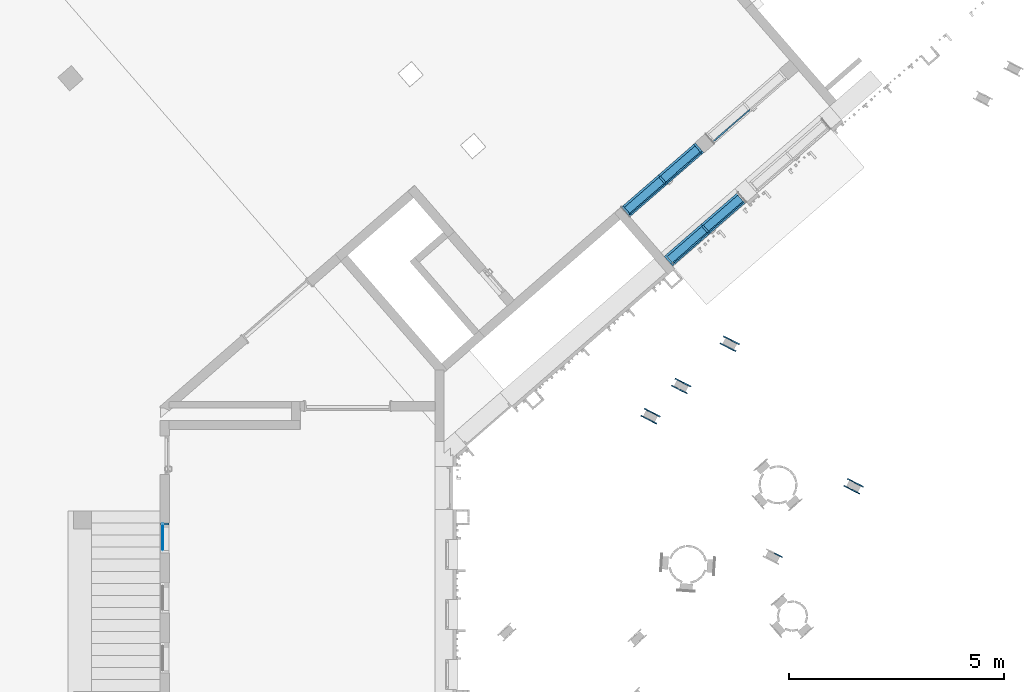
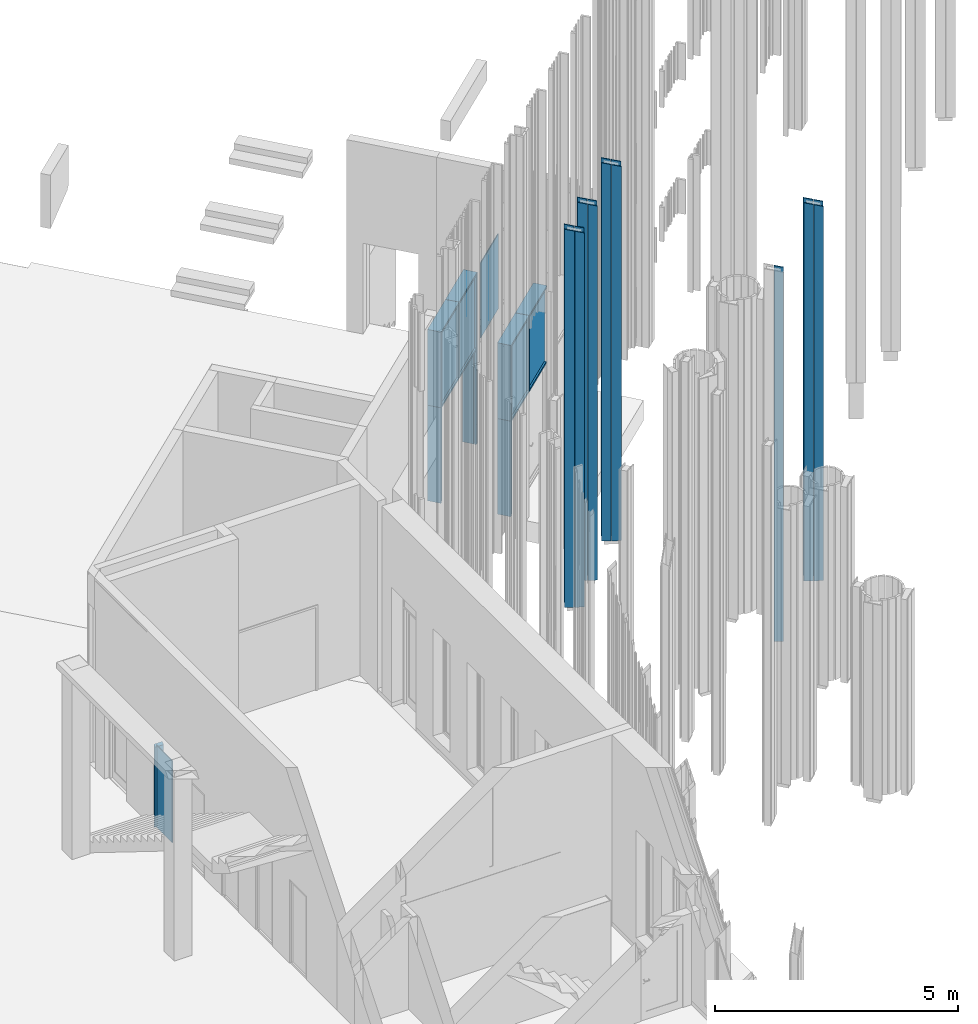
# One storey, part 40 of 390: 40 discrete accessories, 4 elements without a shape of their own.
"""IFC2X3 building model written with IfcOpenShell, lengths in millimetres."""

from ifc_helpers import new_model, entity, si_unit, converted_unit, derived_unit, money_unit, direction, frame, origin_with_axes, place, context, subcontext, project, spatial, polyline, outline, extrude, clip, halfspace, faceted_brep, source, transform, mapped, material, material_list, type_object, element, aggregate, save


model = new_model("IFC2X3")

# Units and contexts
model_context = context("Model", 3, precision=1e-05, world=origin_with_axes(), true_north=direction((0.0, 1.0)))
body_context = subcontext(model_context, "Body", "Model", "MODEL_VIEW")
ifc_project = project(units=[si_unit("LENGTHUNIT", "METRE", prefix="MILLI"), si_unit("AREAUNIT", "SQUARE_METRE"), si_unit("VOLUMEUNIT", "CUBIC_METRE"), converted_unit("PLANEANGLEUNIT", "DEGREE", entity("IfcPlaneAngleMeasure", 0.0174532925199), si_unit("PLANEANGLEUNIT", "RADIAN"), dimensions=[0, 0, 0, 0, 0, 0, 0]), si_unit("SOLIDANGLEUNIT", "STERADIAN"), money_unit("EUR"), converted_unit("TIMEUNIT", "Year", entity("IfcTimeMeasure", 31556926.0), si_unit("TIMEUNIT", "SECOND"), dimensions=[0, 0, 1, 0, 0, 0, 0]), si_unit("MASSUNIT", "GRAM", prefix="KILO"), si_unit("THERMODYNAMICTEMPERATUREUNIT", "DEGREE_CELSIUS"), si_unit("LUMINOUSINTENSITYUNIT", "LUMEN"), si_unit("ENERGYUNIT", "JOULE", prefix="MEGA"), derived_unit("THERMALCONDUCTANCEUNIT", [(si_unit("POWERUNIT", "WATT"), 1), (si_unit("LENGTHUNIT", "METRE"), -1), (si_unit("THERMODYNAMICTEMPERATUREUNIT", "KELVIN"), -1)]), derived_unit("SPECIFICHEATCAPACITYUNIT", [(si_unit("ENERGYUNIT", "JOULE"), 1), (si_unit("MASSUNIT", "GRAM", prefix="KILO"), -1), (si_unit("THERMODYNAMICTEMPERATUREUNIT", "KELVIN"), -1)]), derived_unit("MASSDENSITYUNIT", [(si_unit("MASSUNIT", "GRAM", prefix="KILO"), 1), (si_unit("VOLUMEUNIT", "CUBIC_METRE"), -1)])], contexts=[model_context])

# Site, building, storey
site_placement = place(None, origin_with_axes())
site = spatial("IfcSite", under=ifc_project, at=site_placement, Name="Site", CompositionType="ELEMENT")
building_placement = place(site_placement, origin_with_axes())
building = spatial("IfcBuilding", under=site, at=building_placement, Name="Building", CompositionType="ELEMENT")
storey_placement = place(building_placement, origin_with_axes())
storey = spatial("IfcBuildingStorey", under=building, at=storey_placement, Name="1 korrus", CompositionType="ELEMENT", Elevation=0.0)

# Curtain wall, discrete accessories
curtain_wall_type_1 = type_object("IfcCurtainWallType", Name="KLF-11", PredefinedType="NOTDEFINED")
curtain_wall_1_placement = place(storey_placement, frame((145221.984499, 71084.8139219, -9.48523471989e-05), z_axis=(0.0, 0.0, 1.0), x_axis=(1.0, 0.0, 0.0)))
curtain_wall_1 = element("IfcCurtainWall", 1, at=curtain_wall_1_placement, inside=storey, type_object=curtain_wall_type_1, Name="Klaasfassaad")
ifc_material_1 = material(Name="Klaas")
discrete_accessory_type_1 = type_object("IfcDiscreteAccessoryType", Name="Distinct Panel 1120 x 1880 x 20")
discrete_accessory_1_placement = place(curtain_wall_1_placement, frame((0.0, 0.0, 3350.00012567), z_axis=(0.0, 0.0, 1.0), x_axis=(0.754709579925, 0.656059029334, 0.0)))
discrete_accessory_1 = element("IfcDiscreteAccessory", 2, at=discrete_accessory_1_placement, type_object=discrete_accessory_type_1, material=ifc_material_1, Name="KLF-11 klaaspakett", context=body_context, shape_type="SweptSolid", body=[
    extrude(outline(polyline([(-549.999988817, -930.000042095), (570.000002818, -930.000042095), (570.000002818, 950.000030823), (-549.999988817, 950.000030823), (-549.999988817, -930.000042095)])), frame((0.0, -10.0, 0.0), z_axis=(0.0, 1.0, 0.0), x_axis=(1.0, 0.0, 0.0)), (0.0, 0.0, 1.0), 20.0),
])
discrete_accessory_type_2 = type_object("IfcDiscreteAccessoryType", Name="Main Panel 1120 x 1880 x 20")
discrete_accessory_2_placement = place(curtain_wall_1_placement, frame((860.368921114, 747.90729344, 3350.00012567), z_axis=(0.0, 0.0, 1.0), x_axis=(0.754709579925, 0.656059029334, 0.0)))
discrete_accessory_2 = element("IfcDiscreteAccessory", 3, at=discrete_accessory_2_placement, type_object=discrete_accessory_type_2, material=ifc_material_1, Name="KLF-11 klaaspakett", context=body_context, shape_type="SweptSolid", body=[
    extrude(outline(polyline([(-570.000008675, -930.000042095), (550.000011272, -930.000042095), (550.000011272, 950.000030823), (-570.000008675, 950.000030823), (-570.000008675, -930.000042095)])), frame((0.0, -9.99999999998, 0.0), z_axis=(0.0, 1.0, 0.0), x_axis=(1.0, 0.0, 0.0)), (0.0, 0.0, 1.0), 20.0),
])
ifc_material_2 = material(Name="Aluminium MUST")
discrete_accessory_type_3 = type_object("IfcDiscreteAccessoryType", Name="50 x 300")
discrete_accessory_3_placement = place(curtain_wall_1_placement, frame((-430.184460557, -373.95364672, 0.0), z_axis=(0.0, 0.0, 1.0), x_axis=(0.754709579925, 0.656059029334, 0.0)))
discrete_accessory_3 = element("IfcDiscreteAccessory", 4, at=discrete_accessory_3_placement, type_object=discrete_accessory_type_3, material=ifc_material_2, Name="KLF-11 profiil", context=body_context, shape_type="Clipping", body=[
    clip(extrude(outline(polyline([(12.3071492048, 23.9485715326), (31.1748887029, 40.3500472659), (-126.279278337, 221.480346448), (-164.014757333, 188.677394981), (32.8029514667, -37.7354789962), (70.5384304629, -4.93252752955), (44.2960692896, 25.2558556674), (25.4283297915, 8.85437993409), (12.3071492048, 23.9485715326)])), frame((0.0, 0.0, 0.0), z_axis=(0.0, 0.0, 1.0), x_axis=(0.754709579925, -0.656059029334, 0.0)), (0.0, 0.0, 1.0), 2400.00009485), halfspace(frame((0.0, 0.0, 0.0), z_axis=(-0.707106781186, 0.0, 0.707106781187), x_axis=(0.0, -1.0, 0.0)), True)),
])
discrete_accessory_4_placement = place(curtain_wall_1_placement, frame((1290.55338167, 1121.86094016, 4300.0001565), z_axis=(-0.754709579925, -0.656059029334, 0.0), x_axis=(0.0, 0.0, 1.0)))
discrete_accessory_4 = element("IfcDiscreteAccessory", 5, at=discrete_accessory_4_placement, type_object=discrete_accessory_type_3, material=ifc_material_2, Name="KLF-11 profiil", context=body_context, shape_type="Clipping", body=[
    clip(extrude(outline(polyline([(10.0, 25.0), (-9.99999999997, 25.0), (-9.99999999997, 50.0), (-50.0, 50.0), (-50.0, 0.0), (250.0, 0.0), (250.0, 50.0), (10.0, 50.0), (10.0, 25.0)])), frame((0.0, 0.0, 0.0), z_axis=(0.0, 0.0, 1.0), x_axis=(0.0, 1.0, 0.0)), (0.0, 0.0, 1.0), 1140.0), halfspace(frame((0.0, 0.0, 0.0), z_axis=(0.707106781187, 0.0, 0.707106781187), x_axis=(0.0, -1.0, 0.0)), True)),
])
discrete_accessory_5_placement = place(curtain_wall_1_placement, frame((430.184460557, 373.95364672, 4300.0001565), z_axis=(-0.754709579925, -0.656059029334, 0.0), x_axis=(0.0, 0.0, 1.0)))
discrete_accessory_5 = element("IfcDiscreteAccessory", 6, at=discrete_accessory_5_placement, type_object=discrete_accessory_type_3, material=ifc_material_2, Name="KLF-11 profiil", context=body_context, shape_type="Clipping", body=[
    clip(extrude(outline(polyline([(10.0, 25.0), (-9.99999999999, 25.0), (-9.99999999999, 50.0), (-50.0, 50.0), (-50.0, 0.0), (250.0, 0.0), (250.0, 50.0), (10.0, 50.0), (10.0, 25.0)])), frame((0.0, 0.0, 0.0), z_axis=(0.0, 0.0, 1.0), x_axis=(0.0, 1.0, 0.0)), (0.0, 0.0, 1.0), 1140.0), halfspace(frame((-570.0, 0.0, 570.0), z_axis=(0.707106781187, 0.0, -0.707106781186), x_axis=(0.0, 1.0, 0.0)), True)),
])
discrete_accessory_6_placement = place(curtain_wall_1_placement, frame((-430.184460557, -373.95364672, 2400.00009485), z_axis=(0.0, 0.0, 1.0), x_axis=(0.754709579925, 0.656059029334, 0.0)))
discrete_accessory_6 = element("IfcDiscreteAccessory", 7, at=discrete_accessory_6_placement, type_object=discrete_accessory_type_3, material=ifc_material_2, Name="KLF-11 profiil", context=body_context, shape_type="Clipping", body=[
    clip(extrude(outline(polyline([(12.3071492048, 23.9485715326), (31.1748887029, 40.3500472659), (-126.279278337, 221.480346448), (-164.014757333, 188.677394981), (32.8029514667, -37.7354789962), (70.5384304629, -4.93252752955), (44.2960692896, 25.2558556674), (25.4283297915, 8.85437993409), (12.3071492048, 23.9485715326)])), frame((0.0, 0.0, 0.0), z_axis=(0.0, 0.0, 1.0), x_axis=(0.754709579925, -0.656059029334, 0.0)), (0.0, 0.0, 1.0), 1900.00006165), halfspace(frame((950.000030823, 0.0, 950.000030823), z_axis=(-0.707106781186, 0.0, -0.707106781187), x_axis=(0.0, 1.0, 0.0)), True)),
])
ifc_material_list_1 = material_list([ifc_material_2, ifc_material_2])
discrete_accessory_type_4 = type_object("IfcDiscreteAccessoryType", Name="50 x 250")
discrete_accessory_7_placement = place(curtain_wall_1_placement, frame((430.184460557, 373.95364672, 2400.00009485), z_axis=(-0.754709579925, -0.656059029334, 0.0), x_axis=(0.0, 0.0, 1.0)))
discrete_accessory_7 = element("IfcDiscreteAccessory", 8, at=discrete_accessory_7_placement, type_object=discrete_accessory_type_4, material=ifc_material_list_1, Name="KLF-11 profiil", context=body_context, shape_type="SweptSolid", body=[
    extrude(outline(polyline([(10.0, -25.0), (200.0, -25.0), (200.0, 25.0), (10.0, 25.0), (10.0, -25.0)])), frame((0.0, 0.0, 25.0), z_axis=(0.0, 0.0, 1.0), x_axis=(0.0, 1.0, 0.0)), (0.0, 0.0, 1.0), 1065.0),
    extrude(outline(polyline([(-10.0, 25.0), (-50.0, 25.0), (-50.0, -25.0), (-10.0, -25.0), (-10.0, 25.0)])), frame((0.0, 0.0, 24.9999999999), z_axis=(0.0, 0.0, 1.0), x_axis=(0.0, 1.0, 0.0)), (0.0, 0.0, 1.0), 1065.0),
])
discrete_accessory_8_placement = place(curtain_wall_1_placement, frame((430.184460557, 373.95364672, 2400.00009485), z_axis=(0.0, 0.0, 1.0), x_axis=(0.754709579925, 0.656059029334, 0.0)))
discrete_accessory_8 = element("IfcDiscreteAccessory", 9, at=discrete_accessory_8_placement, type_object=discrete_accessory_type_4, material=ifc_material_list_1, Name="KLF-11 profiil", context=body_context, shape_type="SweptSolid", body=[
    extrude(outline(polyline([(12.3071492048, 23.9485715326), (-112.344066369, 167.343391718), (-150.079545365, 134.540440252), (-25.4283297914, -8.85437993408), (12.3071492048, 23.9485715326)])), frame((0.0, 0.0, -25.0), z_axis=(0.0, 0.0, 1.0), x_axis=(0.754709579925, -0.656059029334, 0.0)), (0.0, 0.0, 1.0), 1875.00006165),
    extrude(outline(polyline([(-12.3071492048, -23.9485715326), (13.9352119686, -54.1369547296), (51.6706909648, -21.3340032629), (25.4283297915, 8.85437993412), (-12.3071492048, -23.9485715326)])), frame((0.0, 0.0, -25.0), z_axis=(0.0, 0.0, 1.0), x_axis=(0.754709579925, -0.656059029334, 0.0)), (0.0, 0.0, 1.0), 1875.00006165),
])
discrete_accessory_9_placement = place(curtain_wall_1_placement, frame((1290.55338167, 1121.86094016, 2400.00009485), z_axis=(-0.754709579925, -0.656059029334, 0.0), x_axis=(0.0, 0.0, 1.0)))
discrete_accessory_9 = element("IfcDiscreteAccessory", 10, at=discrete_accessory_9_placement, type_object=discrete_accessory_type_4, material=ifc_material_list_1, Name="KLF-11 profiil", context=body_context, shape_type="SweptSolid", body=[
    extrude(outline(polyline([(10.0, -25.0), (200.0, -25.0), (200.0, 25.0), (10.0, 25.0), (10.0, -25.0)])), frame((0.0, 0.0, 50.0000000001), z_axis=(0.0, 0.0, 1.0), x_axis=(0.0, 1.0, 0.0)), (0.0, 0.0, 1.0), 1065.0),
    extrude(outline(polyline([(-10.0, 25.0), (-50.0, 25.0), (-50.0, -25.0), (-10.0, -25.0), (-10.0, 25.0)])), frame((0.0, 0.0, 50.0), z_axis=(0.0, 0.0, 1.0), x_axis=(0.0, 1.0, 0.0)), (0.0, 0.0, 1.0), 1065.0),
])
aggregate(curtain_wall_1, [discrete_accessory_1, discrete_accessory_2, discrete_accessory_7, discrete_accessory_8, discrete_accessory_3, discrete_accessory_9, discrete_accessory_4, discrete_accessory_5, discrete_accessory_6])

# Curtain wall, discrete accessory
curtain_wall_type_2 = type_object("IfcCurtainWallType", Name="KS-16", PredefinedType="NOTDEFINED")
curtain_wall_2_placement = place(storey_placement, frame((144224.233035, 72231.5017266, -10.0342097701), z_axis=(0.0, 0.0, 1.0), x_axis=(1.0, 0.0, 0.0)))
curtain_wall_2 = element("IfcCurtainWall", 11, at=curtain_wall_2_placement, inside=storey, type_object=curtain_wall_type_2, Name="Klaas-sein")
discrete_accessory_type_5 = type_object("IfcDiscreteAccessoryType", Name="Distinct Panel 1120 x 1880 x 20")
discrete_accessory_10_placement = place(curtain_wall_2_placement, frame((0.0, 0.0, 3350.00011026), z_axis=(0.0, 0.0, 1.0), x_axis=(0.754709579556, 0.656059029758, 0.0)))
discrete_accessory_10 = element("IfcDiscreteAccessory", 12, at=discrete_accessory_10_placement, type_object=discrete_accessory_type_5, material=ifc_material_1, Name="KS-16 klaaspakett", context=body_context, shape_type="SweptSolid", body=[
    extrude(outline(polyline([(-549.999988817, -930.000057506), (570.000002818, -929.999972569), (570.000002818, 950.000015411), (-549.999988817, 950.000015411), (-549.999988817, -930.000057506)])), frame((0.0, -9.99999999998, 0.0), z_axis=(0.0, 1.0, 0.0), x_axis=(1.0, 0.0, 0.0)), (0.0, 0.0, 1.0), 20.0),
])

curtain_wall_3_placement = place(storey_placement, frame((146495.325504, 74205.7322919, -4.47035263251e-05), z_axis=(0.0, 0.0, 1.0), x_axis=(1.0, 0.0, 0.0)))
curtain_wall_3 = element("IfcCurtainWall", 13, at=curtain_wall_3_placement, inside=storey, type_object=curtain_wall_type_2, Name="Klaas-sein")
discrete_accessory_11_placement = place(curtain_wall_3_placement, frame((-308.320654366, -268.019056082, 3350.00006142), z_axis=(0.0, 0.0, 1.0), x_axis=(0.754709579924, 0.656059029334, 0.0)))
discrete_accessory_11 = element("IfcDiscreteAccessory", 14, at=discrete_accessory_11_placement, type_object=discrete_accessory_type_5, material=ifc_material_1, Name="KS-16 klaaspakett", context=body_context, shape_type="SweptSolid", body=[
    extrude(outline(polyline([(-549.99999191, -930.000061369), (570.000002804, -929.999976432), (570.000002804, 950.000016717), (-549.99999191, 950.000016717), (-549.99999191, -930.000061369)])), frame((0.0, -9.99999999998, 0.0), z_axis=(0.0, 1.0, 0.0), x_axis=(1.0, 0.0, 0.0)), (0.0, 0.0, 1.0), 20.0),
])
aggregate(curtain_wall_3, [discrete_accessory_11])

# Discrete accessory
discrete_accessory_type_6 = type_object("IfcDiscreteAccessoryType", Name="Main Panel 1120 x 1880 x 20")
discrete_accessory_12_placement = place(curtain_wall_2_placement, frame((860.368920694, 747.907293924, 3350.00011157), z_axis=(0.0, 0.0, 1.0), x_axis=(0.754709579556, 0.656059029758, 0.0)))
discrete_accessory_12 = element("IfcDiscreteAccessory", 15, at=discrete_accessory_12_placement, type_object=discrete_accessory_type_6, material=ifc_material_1, Name="KS-16 klaaspakett", context=body_context, shape_type="SweptSolid", body=[
    extrude(outline(polyline([(-570.000015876, -929.999973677), (550.000008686, -930.000058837), (550.000008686, 950.000004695), (-569.999987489, 950.000004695), (-570.000015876, -929.999973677)])), frame((0.0, -10.0, 0.0), z_axis=(0.0, 1.0, 0.0), x_axis=(1.0, 0.0, 0.0)), (0.0, 0.0, 1.0), 20.0),
])

discrete_accessory_type_7 = type_object("IfcDiscreteAccessoryType", Name="50 x 300")
discrete_accessory_13_placement = place(curtain_wall_2_placement, frame((-430.184460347, -373.953646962, 0.0), z_axis=(0.0, 0.0, 1.0), x_axis=(0.754709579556, 0.656059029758, 0.0)))
discrete_accessory_13 = element("IfcDiscreteAccessory", 16, at=discrete_accessory_13_placement, type_object=discrete_accessory_type_7, material=ifc_material_2, Name="KLF-16 profiil", context=body_context, shape_type="Clipping", body=[
    clip(extrude(outline(polyline([(12.3071491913, 23.9485715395), (31.1748886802, 40.3500472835), (-126.279278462, 221.480346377), (-164.014757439, 188.677394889), (32.8029514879, -37.7354789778), (70.5384304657, -4.9325274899), (44.2960692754, 25.2558556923), (25.4283297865, 8.8543799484), (12.3071491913, 23.9485715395)])), frame((0.0, 0.0, -1.87849735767e-10), z_axis=(0.0, 0.0, 1.0), x_axis=(0.754709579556, -0.656059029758, 0.0)), (0.0, 0.0, 1.0), 2400.00009485), halfspace(frame((0.0, 0.0, 0.0), z_axis=(-0.707106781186, 0.0, 0.707106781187), x_axis=(0.0, -1.0, 0.0)), True)),
])

discrete_accessory_14_placement = place(curtain_wall_2_placement, frame((430.184460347, 373.953646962, 4300.00009485), z_axis=(0.754709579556, 0.656059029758, 5.86570402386e-08), x_axis=(4.42690301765e-08, 3.84824809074e-08, -1.0)))
discrete_accessory_14 = element("IfcDiscreteAccessory", 17, at=discrete_accessory_14_placement, type_object=discrete_accessory_type_7, material=ifc_material_2, Name="KLF-16 profiil", context=body_context, shape_type="Clipping", body=[
    clip(extrude(outline(polyline([(-10.0, 25.0000654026), (-10.0, 50.0000639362), (-250.0, 50.0000639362), (-250.0, 6.68690258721e-05), (50.0, 6.68690258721e-05), (50.0, 50.0000639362), (9.99999999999, 50.0000639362), (9.99999999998, 25.0000654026), (-10.0, 25.0000654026)])), frame((0.0, 0.0, -5.75116132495e-06), z_axis=(0.0, 0.0, 1.0), x_axis=(0.0, -1.0, 0.0)), (0.0, 0.0, 1.0), 1140.00000575), halfspace(frame((570.000033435, 0.0, 569.999933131), z_axis=(-0.707106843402, 0.0, -0.707106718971), x_axis=(0.0, 1.0, 0.0)), True)),
])

discrete_accessory_15_placement = place(curtain_wall_2_placement, frame((-430.184460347, -373.953646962, 2400.00009485), z_axis=(0.0, 0.0, 1.0), x_axis=(0.754709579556, 0.656059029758, 0.0)))
discrete_accessory_15 = element("IfcDiscreteAccessory", 18, at=discrete_accessory_15_placement, type_object=discrete_accessory_type_7, material=ifc_material_2, Name="KLF-16 profiil", context=body_context, shape_type="Clipping", body=[
    clip(extrude(outline(polyline([(12.3071491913, 23.9485715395), (31.1748886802, 40.3500472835), (-126.279278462, 221.480346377), (-164.014757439, 188.677394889), (32.8029514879, -37.7354789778), (70.5384304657, -4.93252748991), (44.2960692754, 25.2558556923), (25.4283297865, 8.85437994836), (12.3071491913, 23.9485715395)])), frame((0.0, 0.0, 0.0), z_axis=(0.0, 0.0, 1.0), x_axis=(0.754709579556, -0.656059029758, 0.0)), (0.0, 0.0, 1.0), 1900.00006165), halfspace(frame((950.000030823, 0.0, 949.999979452), z_axis=(-0.707106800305, 0.0, -0.707106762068), x_axis=(0.0, 1.0, 0.0)), True)),
])

discrete_accessory_16_placement = place(curtain_wall_2_placement, frame((1290.55338104, 1121.86094089, 2400.00009485), z_axis=(0.0, 0.0, 1.0), x_axis=(0.754709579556, 0.656059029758, 0.0)))
discrete_accessory_16 = element("IfcDiscreteAccessory", 19, at=discrete_accessory_16_placement, type_object=discrete_accessory_type_7, material=ifc_material_2, Name="KLF-16 profiil", context=body_context, shape_type="Clipping", body=[
    clip(extrude(outline(polyline([(-25.4283297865, -8.85437994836), (-12.3071491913, -23.9485715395), (-31.1748886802, -40.3500472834), (-4.93252748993, -70.5384304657), (32.8029514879, -37.7354789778), (-164.014757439, 188.677394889), (-201.750236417, 155.874443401), (-44.2960692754, -25.2558556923), (-25.4283297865, -8.85437994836)])), frame((0.0, 0.0, 0.0), z_axis=(0.0, 0.0, 1.0), x_axis=(0.754709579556, -0.656059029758, 0.0)), (0.0, 0.0, 1.0), 1900.00006687), halfspace(frame((-950.000033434, 0.0, 949.99997771), z_axis=(0.707106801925, 0.0, -0.707106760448), x_axis=(0.0, 1.0, 0.0)), True)),
])

discrete_accessory_17_placement = place(curtain_wall_2_placement, frame((1290.55338104, 1121.86094089, 0.0), z_axis=(0.0, 0.0, 1.0), x_axis=(0.754709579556, 0.656059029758, 0.0)))
discrete_accessory_17 = element("IfcDiscreteAccessory", 20, at=discrete_accessory_17_placement, type_object=discrete_accessory_type_7, material=ifc_material_2, Name="KLF-16 profiil", context=body_context, shape_type="SweptSolid", body=[
    extrude(outline(polyline([(-25.4283297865, -8.85437994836), (-12.3071491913, -23.9485715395), (-31.1748886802, -40.3500472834), (-4.9325274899, -70.5384304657), (32.8029514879, -37.7354789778), (-164.014757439, 188.677394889), (-201.750236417, 155.874443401), (-44.2960692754, -25.2558556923), (-25.4283297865, -8.85437994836)])), frame((0.0, 0.0, 0.0), z_axis=(0.0, 0.0, 1.0), x_axis=(0.754709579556, -0.656059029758, 0.0)), (0.0, 0.0, 1.0), 2400.00009485),
])

discrete_accessory_18_placement = place(curtain_wall_2_placement, frame((-430.184460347, -373.953646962, 4300.0001565), z_axis=(0.754709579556, 0.656059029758, -5.40747283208e-08), x_axis=(-4.08107154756e-08, -3.54762137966e-08, -1.0)))
discrete_accessory_18 = element("IfcDiscreteAccessory", 21, at=discrete_accessory_18_placement, type_object=discrete_accessory_type_7, material=ifc_material_2, Name="KLF-16 profiil", context=body_context, shape_type="Clipping", body=[
    clip(extrude(outline(polyline([(-9.99999999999, 24.9999383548), (-10.0, 49.9999383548), (-250.0, 49.9999383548), (-250.0, -6.16451902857e-05), (50.0, -6.16451902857e-05), (50.0, 49.9999383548), (9.99999999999, 49.9999383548), (9.99999999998, 24.9999383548), (-9.99999999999, 24.9999383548)])), frame((0.0, 0.0, 0.0), z_axis=(0.0, 0.0, 1.0), x_axis=(0.0, -1.0, 0.0)), (0.0, 0.0, 1.0), 1140.00000552), halfspace(frame((0.0, 0.0, 0.0), z_axis=(-0.707106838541, 0.0, 0.707106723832), x_axis=(0.0, -1.0, 0.0)), True)),
])

discrete_accessory_type_8 = type_object("IfcDiscreteAccessoryType", Name="50 x 250")
discrete_accessory_19_placement = place(curtain_wall_2_placement, frame((430.184460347, 373.953646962, 2400.00009485), z_axis=(0.0, 0.0, 1.0), x_axis=(0.754709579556, 0.656059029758, 0.0)))
discrete_accessory_19 = element("IfcDiscreteAccessory", 22, at=discrete_accessory_19_placement, type_object=discrete_accessory_type_8, material=ifc_material_list_1, Name="KLF-16 profiil", context=body_context, shape_type="SweptSolid", body=[
    extrude(outline(polyline([(12.3071491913, 23.9485715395), (-112.344066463, 167.343391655), (-150.07954544, 134.540440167), (-25.4283297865, -8.85437994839), (12.3071491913, 23.9485715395)])), frame((0.0, 0.0, -25.0), z_axis=(0.0, 0.0, 1.0), x_axis=(0.754709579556, -0.656059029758, 0.0)), (0.0, 0.0, 1.0), 1874.99999946),
    extrude(outline(polyline([(-12.3071491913, -23.9485715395), (13.935211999, -54.1369547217), (51.6706909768, -21.3340032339), (25.4283297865, 8.85437994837), (-12.3071491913, -23.9485715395)])), frame((0.0, 0.0, -25.0), z_axis=(0.0, 0.0, 1.0), x_axis=(0.754709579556, -0.656059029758, 0.0)), (0.0, 0.0, 1.0), 1875.0000027),
])

discrete_accessory_20_placement = place(curtain_wall_2_placement, frame((1290.55338104, 1121.86094089, 2400.00009485), z_axis=(-0.754709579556, -0.656059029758, 0.0), x_axis=(0.0, 0.0, 1.0)))
discrete_accessory_20 = element("IfcDiscreteAccessory", 23, at=discrete_accessory_20_placement, type_object=discrete_accessory_type_8, material=ifc_material_list_1, Name="KLF-16 profiil", context=body_context, shape_type="SweptSolid", body=[
    extrude(outline(polyline([(9.99999999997, -25.0), (200.0, -25.0), (200.0, 25.0), (9.99999999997, 25.0), (9.99999999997, -25.0)])), frame((0.0, 0.0, 49.9999999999), z_axis=(0.0, 0.0, 1.0), x_axis=(0.0, 1.0, 0.0)), (0.0, 0.0, 1.0), 1065.0),
    extrude(outline(polyline([(-9.99999999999, 25.0), (-50.0, 25.0), (-50.0, -25.0), (-9.99999999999, -25.0), (-9.99999999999, 25.0)])), frame((0.0, 0.0, 49.9999999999), z_axis=(0.0, 0.0, 1.0), x_axis=(0.0, 1.0, 0.0)), (0.0, 0.0, 1.0), 1065.0),
])

discrete_accessory_21_placement = place(curtain_wall_2_placement, frame((430.184460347, 373.953646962, 2400.00009485), z_axis=(-0.754709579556, -0.656059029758, 0.0), x_axis=(0.0, 0.0, 1.0)))
discrete_accessory_21 = element("IfcDiscreteAccessory", 24, at=discrete_accessory_21_placement, type_object=discrete_accessory_type_8, material=ifc_material_list_1, Name="KLF-16 profiil", context=body_context, shape_type="SweptSolid", body=[
    extrude(outline(polyline([(9.99999999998, -25.0), (200.0, -25.0), (200.0, 25.0), (9.99999999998, 25.0), (9.99999999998, -25.0)])), frame((0.0, 0.0, 25.0), z_axis=(0.0, 0.0, 1.0), x_axis=(0.0, 1.0, 0.0)), (0.0, 0.0, 1.0), 1065.0),
    extrude(outline(polyline([(-10.0, 25.0), (-50.0, 25.0), (-50.0, -25.0), (-10.0, -25.0), (-10.0, 25.0)])), frame((0.0, 0.0, 25.0), z_axis=(0.0, 0.0, 1.0), x_axis=(0.0, 1.0, 0.0)), (0.0, 0.0, 1.0), 1065.0),
])

aggregate(curtain_wall_2, [discrete_accessory_10, discrete_accessory_12, discrete_accessory_13, discrete_accessory_19, discrete_accessory_14, discrete_accessory_20, discrete_accessory_15, discrete_accessory_16, discrete_accessory_21, discrete_accessory_17, discrete_accessory_18])

# Discrete accessories
ifc_material_3 = material(Name="GENEERILINE - VÄLINE VOODER")
discrete_accessory_type_9 = type_object("IfcDiscreteAccessoryType", Name="GENEERILINE - VÄLINE VOODER")
shared_shape_1 = source(origin_with_axes(), body_context, "Body", "Brep", [
    faceted_brep([(162190.360855, 119453.798876, 100.0), (162190.360855, 119453.798876, 9600.0), (162168.524839, 119456.480002, 9600.0), (162168.524839, 119456.480002, 100.0), (162214.734723, 119652.308107, 100.0), (162214.734723, 119652.308107, 9546.41016151), (162192.898708, 119654.989232, 9546.41016151), (162192.898708, 119654.989232, 100.0)], [[[0, 1, 2, 3]], [[1, 0, 4, 5]], [[2, 1, 5, 6]], [[3, 2, 6, 7]], [[0, 3, 7, 4]], [[7, 6, 5, 4]]]),
])
for number, where, z_axis, x_axis in (
    (25, (87383.30896, 260604.80081, 0.0), (0.0, 0.0, 1.0), (-0.342020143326, -0.939692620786, 0.0)),
    (26, (88099.3111011, 261305.387655, 0.0), (0.0, 0.0, 1.0), (-0.342020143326, -0.939692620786, 0.0)),
    (27, (89231.3754714, 262289.476198, 0.0), (0.0, 0.0, 1.0), (-0.342020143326, -0.939692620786, 0.0)),
    (28, (92117.8459079, 258968.589497, 0.0), (0.0, 0.0, 1.0), (-0.342020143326, -0.939692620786, 0.0)),
):
    element("IfcDiscreteAccessory", number, at=place(storey_placement, frame(where, z_axis=z_axis, x_axis=x_axis)), inside=storey, type_object=discrete_accessory_type_9, material=ifc_material_3, Name="Päikesevarjestuspost", context=body_context, shape_type="MappedRepresentation", body=[
        mapped(shared_shape_1, transform((0.0, 0.0, 0.0))),
    ])
shared_shape_2 = source(origin_with_axes(), body_context, "Body", "Brep", [
    faceted_brep([(162194.117401, 119664.914694, 100.0), (162215.953417, 119662.233568, 100.0), (162215.953417, 119662.233568, 9543.73066959), (162194.117401, 119664.914694, 9543.73066959), (162218.49127, 119863.423924, 100.0), (162240.327285, 119860.742798, 100.0), (162240.327285, 119860.742798, 9490.1408311), (162218.49127, 119863.423924, 9490.1408311)], [[[0, 1, 2, 3]], [[1, 0, 4, 5]], [[2, 1, 5, 6]], [[3, 2, 6, 7]], [[0, 3, 7, 4]], [[4, 7, 6, 5]]]),
])
for number, where, z_axis, x_axis in (
    (29, (90231.2612486, 257328.606473, 0.0), (0.0, 0.0, 1.0), (-0.342020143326, -0.939692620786, 0.0)),
    (30, (87383.30896, 260604.80081, 0.0), (0.0, 0.0, 1.0), (-0.342020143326, -0.939692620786, 0.0)),
    (31, (88099.3111011, 261305.387655, 0.0), (0.0, 0.0, 1.0), (-0.342020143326, -0.939692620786, 0.0)),
    (32, (89231.3754714, 262289.476198, 0.0), (0.0, 0.0, 1.0), (-0.342020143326, -0.939692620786, 0.0)),
    (33, (92117.8459079, 258968.589497, 0.0), (0.0, 0.0, 1.0), (-0.342020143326, -0.939692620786, 0.0)),
):
    element("IfcDiscreteAccessory", number, at=place(storey_placement, frame(where, z_axis=z_axis, x_axis=x_axis)), inside=storey, type_object=discrete_accessory_type_9, material=ifc_material_3, Name="Päikesevarjestuspost", context=body_context, shape_type="MappedRepresentation", body=[
        mapped(shared_shape_2, transform((0.0, 0.0, 0.0))),
    ])
shared_shape_3 = source(origin_with_axes(), body_context, "Body", "Brep", [
    faceted_brep([(-162194.117401, 119664.914694, 100.0), (-162194.117401, 119664.914694, 9543.73066959), (-162215.953417, 119662.233568, 9543.73066959), (-162215.953417, 119662.233568, 100.0), (-162218.49127, 119863.423924, 100.0), (-162218.49127, 119863.423924, 9490.1408311), (-162240.327285, 119860.742798, 9490.1408311), (-162240.327285, 119860.742798, 100.0)], [[[0, 1, 2, 3]], [[0, 4, 5, 1]], [[1, 5, 6, 2]], [[2, 6, 7, 3]], [[3, 7, 4, 0]], [[4, 7, 6, 5]]]),
])
for number, where, z_axis, x_axis in (
    (34, (-45639.2328995, -466.637365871, 0.0), (0.0, 0.0, 1.0), (-0.559192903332, -0.829037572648, 0.0)),
    (35, (-44923.2307584, 233.949478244, 0.0), (0.0, 0.0, 1.0), (-0.559192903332, -0.829037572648, 0.0)),
    (36, (-43791.1663882, 1218.03802182, 0.0), (0.0, 0.0, 1.0), (-0.559192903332, -0.829037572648, 0.0)),
    (37, (-40904.6959517, -2102.84867935, 0.0), (0.0, 0.0, 1.0), (-0.559192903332, -0.829037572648, 0.0)),
):
    element("IfcDiscreteAccessory", number, at=place(storey_placement, frame(where, z_axis=z_axis, x_axis=x_axis)), inside=storey, type_object=discrete_accessory_type_9, material=ifc_material_3, Name="Päikesevarjestuspost", context=body_context, shape_type="MappedRepresentation", body=[
        mapped(shared_shape_3, transform((0.0, 0.0, 0.0))),
    ])
shared_shape_4 = source(origin_with_axes(), body_context, "Body", "Brep", [
    faceted_brep([(-162190.360855, 119453.798876, 100.0), (-162168.524839, 119456.480002, 100.0), (-162168.524839, 119456.480002, 9600.0), (-162190.360855, 119453.798876, 9600.0), (-162214.734723, 119652.308107, 100.0), (-162192.898708, 119654.989232, 100.0), (-162192.898708, 119654.989232, 9546.41016151), (-162214.734723, 119652.308107, 9546.41016151)], [[[0, 1, 2, 3]], [[0, 4, 5, 1]], [[1, 5, 6, 2]], [[2, 6, 7, 3]], [[3, 7, 4, 0]], [[5, 4, 7, 6]]]),
])
for number, where, z_axis, x_axis in (
    (38, (-45639.2328995, -466.637365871, 0.0), (0.0, 0.0, 1.0), (-0.559192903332, -0.829037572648, 0.0)),
    (39, (-44923.2307584, 233.949478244, 0.0), (0.0, 0.0, 1.0), (-0.559192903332, -0.829037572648, 0.0)),
    (40, (-43791.1663882, 1218.03802182, 0.0), (0.0, 0.0, 1.0), (-0.559192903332, -0.829037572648, 0.0)),
    (41, (-40904.6959517, -2102.84867935, 0.0), (0.0, 0.0, 1.0), (-0.559192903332, -0.829037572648, 0.0)),
):
    element("IfcDiscreteAccessory", number, at=place(storey_placement, frame(where, z_axis=z_axis, x_axis=x_axis)), inside=storey, type_object=discrete_accessory_type_9, material=ifc_material_3, Name="Päikesevarjestuspost", context=body_context, shape_type="MappedRepresentation", body=[
        mapped(shared_shape_4, transform((0.0, 0.0, 0.0))),
    ])

# Curtain wall, discrete accessories
curtain_wall_type_3 = type_object("IfcCurtainWallType", Name="KS-17", PredefinedType="NOTDEFINED")
curtain_wall_4_placement = place(storey_placement, frame((132939.999926, 64423.3918775, 0.0), z_axis=(0.0, 0.0, 1.0), x_axis=(1.0, 0.0, 0.0)))
curtain_wall_4 = element("IfcCurtainWall", 42, at=curtain_wall_4_placement, inside=storey, type_object=curtain_wall_type_3, Name="Klaas-sein")
ifc_material_list_2 = material_list([ifc_material_2, ifc_material_2, ifc_material_2])
discrete_accessory_type_10 = type_object("IfcDiscreteAccessoryType", Name="50 x 200")
discrete_accessory_22_placement = place(curtain_wall_4_placement, frame((-1.39266376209e-09, 266.666688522, 2100.0), z_axis=(0.0, -9.93411152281e-09, -1.0), x_axis=(0.0, -1.0, 9.93411152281e-09)))
discrete_accessory_22 = element("IfcDiscreteAccessory", 43, at=discrete_accessory_22_placement, type_object=discrete_accessory_type_10, material=ifc_material_list_2, Name="KS-17 profiil", context=body_context, shape_type="Clipping", body=[
    clip(clip(extrude(outline(polyline([(10.0000000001, 24.9999999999), (-9.99999999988, 25.0), (-9.99999999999, 0.0), (9.99999999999, 0.0), (10.0000000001, 24.9999999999)])), frame((0.0, 0.0, 0.0), z_axis=(0.0, 0.0, 1.0), x_axis=(0.0, -1.0, 0.0)), (0.0, 0.0, 1.0), 2100.0), halfspace(frame((1050.0, 0.0, 1050.00001043), z_axis=(-0.707106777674, 0.0, -0.707106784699), x_axis=(0.0, 1.0, 0.0)), True)), halfspace(frame((0.0, 0.0, 0.0), z_axis=(-0.707106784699, 0.0, 0.707106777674), x_axis=(0.0, -1.0, 0.0)), True)),
    clip(clip(extrude(outline(polyline([(150.0, 49.9999999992), (10.0000000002, 50.0), (9.99999999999, 0.0), (150.0, -7.81597009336e-10), (150.0, 49.9999999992)])), frame((0.0, 0.0, 0.0), z_axis=(0.0, 0.0, 1.0), x_axis=(0.0, -1.0, 0.0)), (0.0, 0.0, 1.0), 2100.0), halfspace(frame((1050.0, 0.0, 1050.00001043), z_axis=(-0.707106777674, 0.0, -0.707106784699), x_axis=(0.0, 1.0, 0.0)), True)), halfspace(frame((0.0, 0.0, 0.0), z_axis=(-0.707106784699, 0.0, 0.707106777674), x_axis=(0.0, -1.0, 0.0)), True)),
    clip(clip(extrude(outline(polyline([(-50.0, 2.55795384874e-10), (-9.99999999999, 0.0), (-9.99999999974, 50.0000000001), (-49.9999999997, 50.0000000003), (-50.0, 2.55795384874e-10)])), frame((0.0, 0.0, 0.0), z_axis=(0.0, 0.0, 1.0), x_axis=(0.0, -1.0, 0.0)), (0.0, 0.0, 1.0), 2100.0), halfspace(frame((1050.0, 0.0, 1050.00001043), z_axis=(-0.707106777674, 0.0, -0.707106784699), x_axis=(0.0, 1.0, 0.0)), True)), halfspace(frame((0.0, 0.0, 0.0), z_axis=(-0.707106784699, 0.0, 0.707106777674), x_axis=(0.0, -1.0, 0.0)), True)),
])
discrete_accessory_type_11 = type_object("IfcDiscreteAccessoryType", Name="Distinct Panel 80 x 2060 x 20")
discrete_accessory_23_placement = place(curtain_wall_4_placement, frame((0.0, 0.0, 1050.0), z_axis=(0.0, 0.0, 1.0), x_axis=(0.0, 1.0, 0.0)))
discrete_accessory_23 = element("IfcDiscreteAccessory", 44, at=discrete_accessory_23_placement, type_object=discrete_accessory_type_11, material=ifc_material_1, Name="KS-17 klaaspakett", context=body_context, shape_type="SweptSolid", body=[
    extrude(outline(polyline([(-413.333324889, -1030.00001341), (246.666701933, -1030.00001341), (246.66667064, 1030.00001341), (-413.333324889, 1030.00001341), (-413.333324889, -1030.00001341)])), frame((0.0, -10.0, 0.0), z_axis=(0.0, 1.0, 0.0), x_axis=(1.0, 0.0, 0.0)), (0.0, 0.0, 1.0), 20.0),
])
aggregate(curtain_wall_4, [discrete_accessory_23, discrete_accessory_22])

save(model, "model.ifc")
